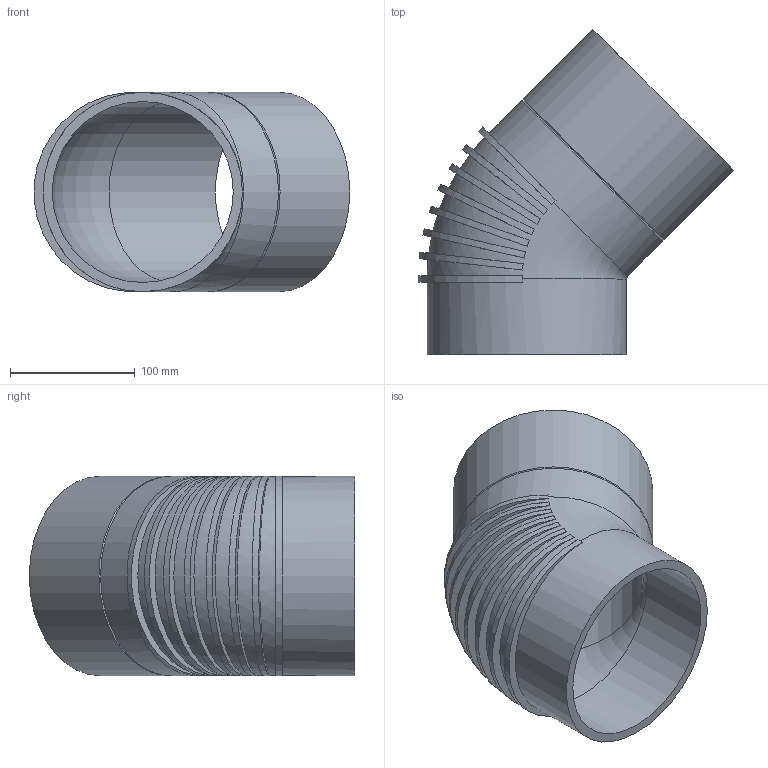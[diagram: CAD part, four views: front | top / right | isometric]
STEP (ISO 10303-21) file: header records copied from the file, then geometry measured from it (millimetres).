
FILE_DESCRIPTION(/* description */ (''),/* implementation_level */ '2;1');
FILE_NAME(/* name */ 'Z:\Geberit\Export\NewStep\Bogen_Ipart\stp\315450.stp',/* time_stamp */ '2014-04-03T16:42:59+02:00',/* author */ ('Marco'),/* organization */ (''),/* preprocessor_version */ 'ST-DEVELOPER v15.2',/* originating_system */ 'Autodesk Inventor 2014',/* authorisation */ '');
FILE_SCHEMA (('AUTOMOTIVE_DESIGN { 1 0 10303 214 3 1 1 }'));
Length unit declared in the file: millimetre
Products named in the file (1): 315450
Bounding box: 253.23 x 261.17 x 160 mm (x, y, z)
Volume: 916311.8 mm3; surface area: 263769.1 mm2
Topology: 1 solids, 1 shells, 35 faces, 96 edges, 63 vertices
Faces by surface type: plane 18, cylinder 13, cone 2, torus 2
Full cylindrical faces by diameter (mm): 145.3 x2, 160 x3
Entity records: 1956 total; most frequent: CARTESIAN_POINT 1152, ORIENTED_EDGE 154, DIRECTION 134, EDGE_CURVE 77, AXIS2_PLACEMENT_3D 65, VERTEX_POINT 59, EDGE_LOOP 52, B_SPLINE_CURVE_WITH_KNOTS 44
